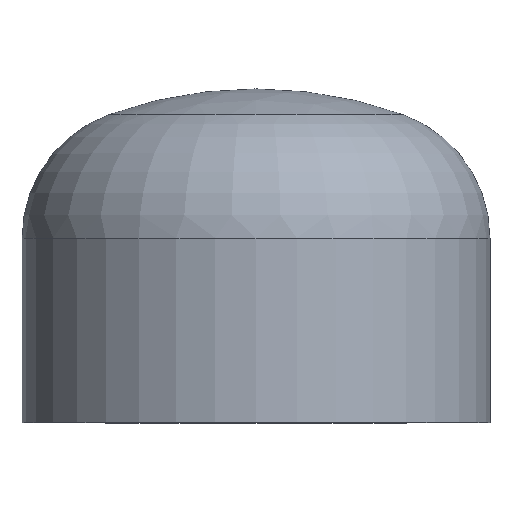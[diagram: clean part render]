
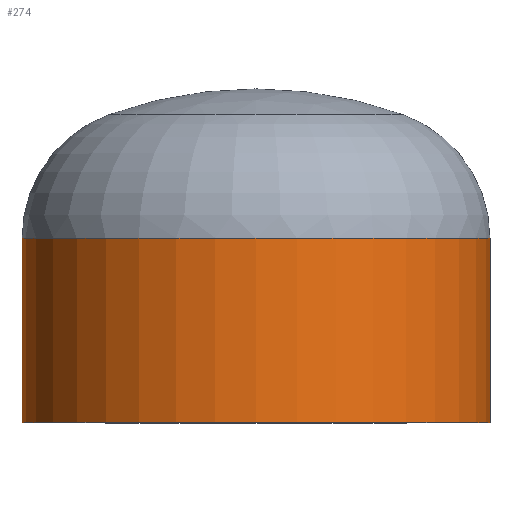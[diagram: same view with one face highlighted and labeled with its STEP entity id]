
A CAD part, top view. The second image highlights one B-rep face of the part: STEP entity #274.
In plain terms, the highlighted cylindrical face has radius 177.8 mm (diameter 355.6 mm), a partial arc.
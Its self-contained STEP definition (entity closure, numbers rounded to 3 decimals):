
#7 = ORIENTED_EDGE ( 'NONE', *, *, #383, .T. ) ;
#16 = ORIENTED_EDGE ( 'NONE', *, *, #30, .T. ) ;
#26 = EDGE_LOOP ( 'NONE', ( #16, #7, #111, #31 ) ) ;
#30 = EDGE_CURVE ( 'NONE', #112, #45, #290, .T. ) ;
#31 = ORIENTED_EDGE ( 'NONE', *, *, #410, .F. ) ;
#45 = VERTEX_POINT ( 'NONE', #205 ) ;
#55 = CARTESIAN_POINT ( 'NONE',  ( 0., 0., 0. ) ) ;
#85 = VERTEX_POINT ( 'NONE', #109 ) ;
#86 = DIRECTION ( 'NONE',  ( 0., -1., 0. ) ) ;
#108 = VECTOR ( 'NONE', #86, 1000. ) ;
#109 = CARTESIAN_POINT ( 'NONE',  ( -177.8, 0., 0. ) ) ;
#110 = VERTEX_POINT ( 'NONE', #145 ) ;
#111 = ORIENTED_EDGE ( 'NONE', *, *, #240, .F. ) ;
#112 = VERTEX_POINT ( 'NONE', #326 ) ;
#116 = AXIS2_PLACEMENT_3D ( 'NONE', #55, #277, #128 ) ;
#128 = DIRECTION ( 'NONE',  ( 1., 0., 0. ) ) ;
#145 = CARTESIAN_POINT ( 'NONE',  ( 177.8, 0., 0. ) ) ;
#164 = CYLINDRICAL_SURFACE ( 'NONE', #116, 177.8 ) ;
#177 = FACE_OUTER_BOUND ( 'NONE', #26, .T. ) ;
#180 = DIRECTION ( 'NONE',  ( 1., 0., 0. ) ) ;
#186 = DIRECTION ( 'NONE',  ( 0., -1., 0. ) ) ;
#187 = CARTESIAN_POINT ( 'NONE',  ( 0., 140., 0. ) ) ;
#189 = CARTESIAN_POINT ( 'NONE',  ( 177.8, 0., 0. ) ) ;
#205 = CARTESIAN_POINT ( 'NONE',  ( -177.8, 140., 0. ) ) ;
#210 = AXIS2_PLACEMENT_3D ( 'NONE', #273, #272, #180 ) ;
#218 = LINE ( 'NONE', #234, #405 ) ;
#226 = DIRECTION ( 'NONE',  ( 0., -1., 0. ) ) ;
#232 = AXIS2_PLACEMENT_3D ( 'NONE', #187, #186, #320 ) ;
#234 = CARTESIAN_POINT ( 'NONE',  ( -177.8, 0., 0. ) ) ;
#240 = EDGE_CURVE ( 'NONE', #110, #85, #351, .T. ) ;
#271 = LINE ( 'NONE', #189, #108 ) ;
#272 = DIRECTION ( 'NONE',  ( 0., -1., 0. ) ) ;
#273 = CARTESIAN_POINT ( 'NONE',  ( 0., 0., 0. ) ) ;
#274 = ADVANCED_FACE ( 'NONE', ( #177 ), #164, .T. ) ;
#277 = DIRECTION ( 'NONE',  ( 0., -1., 0. ) ) ;
#290 = CIRCLE ( 'NONE', #232, 177.8 ) ;
#320 = DIRECTION ( 'NONE',  ( 1., 0., 0. ) ) ;
#326 = CARTESIAN_POINT ( 'NONE',  ( 177.8, 140., 0. ) ) ;
#351 = CIRCLE ( 'NONE', #210, 177.8 ) ;
#383 = EDGE_CURVE ( 'NONE', #45, #85, #218, .T. ) ;
#405 = VECTOR ( 'NONE', #226, 1000. ) ;
#410 = EDGE_CURVE ( 'NONE', #112, #110, #271, .T. ) ;
